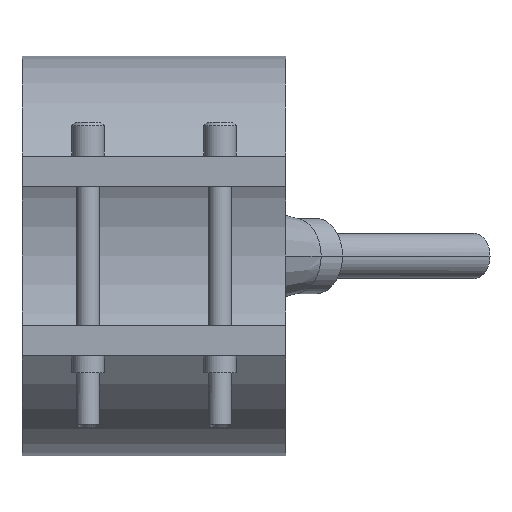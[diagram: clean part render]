
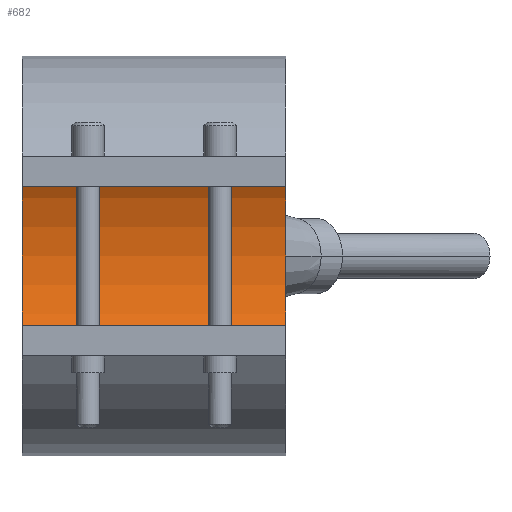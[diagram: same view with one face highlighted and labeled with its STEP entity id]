
A CAD part, front view. The second image highlights one B-rep face of the part: STEP entity #682.
In plain terms, the highlighted cylindrical face has radius 22.5 mm (diameter 45 mm), a partial arc.
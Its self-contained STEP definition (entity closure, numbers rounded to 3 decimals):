
#352=CARTESIAN_POINT('Vertex',(17.5,0.,22.5)) ;
#357=CARTESIAN_POINT('Axis2P3D Location',(17.5,0.,0.)) ;
#361=CARTESIAN_POINT('Vertex',(17.5,0.,-22.5)) ;
#468=CARTESIAN_POINT('Vertex',(-17.5,0.,-22.5)) ;
#471=CARTESIAN_POINT('Axis2P3D Location',(-17.5,0.,0.)) ;
#475=CARTESIAN_POINT('Vertex',(-17.5,0.,22.5)) ;
#654=CARTESIAN_POINT('Line Origine',(17.5,0.,22.5)) ;
#666=CARTESIAN_POINT('Axis2P3D Location',(17.5,0.,0.)) ;
#671=CARTESIAN_POINT('Line Origine',(17.5,0.,-22.5)) ;
#358=DIRECTION('Axis2P3D Direction',(1.,0.,0.)) ;
#472=DIRECTION('Axis2P3D Direction',(1.,0.,0.)) ;
#655=DIRECTION('Vector Direction',(1.,0.,0.)) ;
#667=DIRECTION('Axis2P3D Direction',(1.,0.,-0.)) ;
#668=DIRECTION('Axis2P3D XDirection',(0.,0.,-1.)) ;
#672=DIRECTION('Vector Direction',(1.,0.,0.)) ;
#359=AXIS2_PLACEMENT_3D('Circle Axis2P3D',#357,#358,$) ;
#473=AXIS2_PLACEMENT_3D('Circle Axis2P3D',#471,#472,$) ;
#669=AXIS2_PLACEMENT_3D('Cylinder Axis2P3D',#666,#667,#668) ;
#677=ORIENTED_EDGE('',*,*,#363,.T.) ;
#678=ORIENTED_EDGE('',*,*,#658,.T.) ;
#679=ORIENTED_EDGE('',*,*,#477,.F.) ;
#680=ORIENTED_EDGE('',*,*,#675,.T.) ;
#656=VECTOR('Line Direction',#655,1.) ;
#673=VECTOR('Line Direction',#672,1.) ;
#682=ADVANCED_FACE('29045035',(#681),#670,.F.) ;
#360=CIRCLE('generated circle',#359,22.5) ;
#474=CIRCLE('generated circle',#473,22.5) ;
#670=CYLINDRICAL_SURFACE('generated cylinder',#669,22.5) ;
#363=EDGE_CURVE('',#362,#353,#360,.T.) ;
#477=EDGE_CURVE('',#469,#476,#474,.T.) ;
#658=EDGE_CURVE('',#353,#476,#657,.F.) ;
#675=EDGE_CURVE('',#469,#362,#674,.T.) ;
#676=EDGE_LOOP('',(#677,#678,#679,#680)) ;
#681=FACE_OUTER_BOUND('',#676,.T.) ;
#657=LINE('Line',#654,#656) ;
#674=LINE('Line',#671,#673) ;
#353=VERTEX_POINT('',#352) ;
#362=VERTEX_POINT('',#361) ;
#469=VERTEX_POINT('',#468) ;
#476=VERTEX_POINT('',#475) ;
